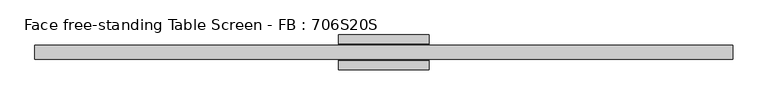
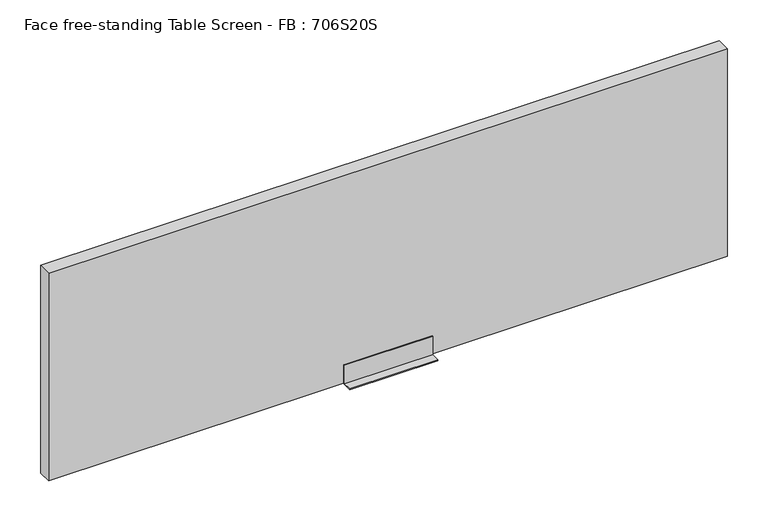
"""IFC4 building model written with IfcOpenShell, lengths in millimetres: furniture geometry, Face free-standing Table Screen - FB : 706S20S."""

from ifc_helpers import new_model, si_unit, frame, origin, place, context, project, spatial, polyline, outline, extrude, source, transform, mapped, element, save


def face_free_standing_table_screen_fb_706s20s_1d73bb6a(model_context):
    return source(origin(), model_context, "Body", "SweptSolid", [
        extrude(outline(polyline([(-50.0, 3.0), (-22.999995, 3.0), (-23.0, 60.0), (-20.0, 60.0), (-20.0, 3.0), (20.0, 3.0), (20.0, 60.0), (23.0, 60.0), (22.999995, 3.0), (50.0, 3.0), (50.0, 0.0), (-50.0, 0.0), (-50.0, 3.0)])), frame((-130.0, 0.0, 0.0), z_axis=(1.0, 0.0, 0.0), x_axis=(0.0, 1.0, 0.0)), (0.0, 0.0, 1.0), 260.0),
        extrude(outline(polyline([(1000.0, -20.0), (-1000.0, -20.0), (-1000.0, 20.0), (1000.0, 20.0), (1000.0, -20.0)])), frame((0.0, 0.0, 3.0), z_axis=(0.0, 0.0, 1.0), x_axis=(1.0, 0.0, 0.0)), (0.0, 0.0, 1.0), 647.0),
    ])


if __name__ == "__main__":
    model = new_model("IFC4")
    model_context = context("Model", 3, world=origin())
    ifc_project = project(units=[si_unit("LENGTHUNIT", "METRE", prefix="MILLI")], contexts=[model_context])
    site = spatial("IfcSite", under=ifc_project)
    building = spatial("IfcBuilding", under=site)
    placement = place(None, origin())
    face_free_standing_table_screen_fb_706s20s_shape = face_free_standing_table_screen_fb_706s20s_1d73bb6a(model_context)
    element("IfcFurniture", 1, ObjectType="Face free-standing Table Screen - FB : 706S20S", at=placement, inside=building, context=model_context, shape_type="MappedRepresentation", body=[
        mapped(face_free_standing_table_screen_fb_706s20s_shape, transform((0.0, 0.0, 0.0), x_axis=(1.0, 0.0, 0.0), y_axis=(0.0, 1.0, 0.0), z_axis=(0.0, 0.0, 1.0))),
    ])
    save(model, "model.ifc")
